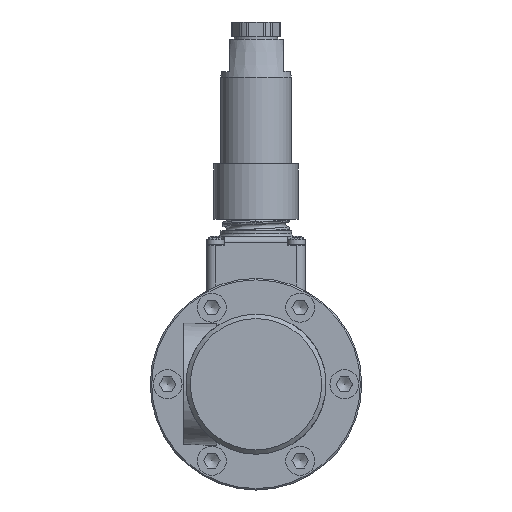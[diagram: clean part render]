
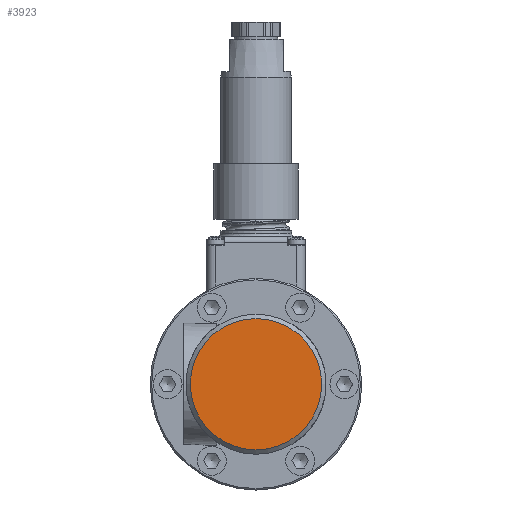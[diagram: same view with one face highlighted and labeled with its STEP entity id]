
A CAD part, left-side view. The second image highlights one B-rep face of the part: STEP entity #3923.
In plain terms, the highlighted planar face has unit normal (-1, 0, 0) as drawn and (1, 0, 0) by its records, which use the part's own axes.
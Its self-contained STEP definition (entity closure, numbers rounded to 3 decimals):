
#3233=FACE_OUTER_BOUND('',#8009,.T.);
#3923=ADVANCED_FACE('',(#3233),#4418,.F.);
#4418=PLANE('',#15971);
#4814=CIRCLE('',#15970,22.65);
#8009=EDGE_LOOP('',(#11146));
#11146=ORIENTED_EDGE('',*,*,#14290,.T.);
#12627=VERTEX_POINT('',#28474);
#14290=EDGE_CURVE('',#12627,#12627,#4814,.T.);
#15970=AXIS2_PLACEMENT_3D('',#28473,#18848,#18849);
#15971=AXIS2_PLACEMENT_3D('',#28475,#18850,#18851);
#18848=DIRECTION('',(1.,0.,0.));
#18849=DIRECTION('',(0.,0.,1.));
#18850=DIRECTION('',(-1.,0.,0.));
#18851=DIRECTION('',(0.,0.,1.));
#28473=CARTESIAN_POINT('',(-1.005,57.317,0.));
#28474=CARTESIAN_POINT('',(-1.005,57.317,22.65));
#28475=CARTESIAN_POINT('',(-1.005,81.467,0.));
